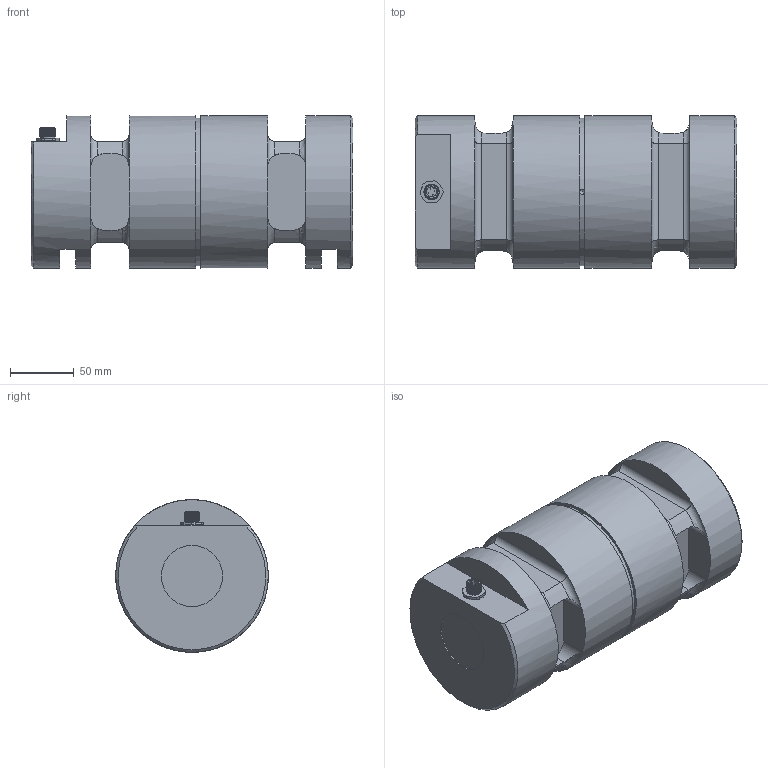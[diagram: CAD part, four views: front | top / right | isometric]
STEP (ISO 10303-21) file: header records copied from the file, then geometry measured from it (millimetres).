
FILE_DESCRIPTION(/* description */ ('Alibre Inc.'),/* implementation_level */ '2;1');
FILE_NAME(/* name */ 'export0',/* time_stamp */ '2014-06-23T09:49:36+02:00',/* author */ (''),/* organization */ (''),/* preprocessor_version */ 'ST-DEVELOPER v14',/* originating_system */ 'Alibre',/* authorisation */ '');
FILE_SCHEMA (('CONFIG_CONTROL_DESIGN'));
Length unit declared in the file: centimetre
Products named in the file (6): ID_1; ID_2; ID_3
Bounding box: 253 x 120 x 120 mm (x, y, z)
Volume: 2478662.7 mm3; surface area: 147775.2 mm2
Topology: 8 solids, 8 shells, 212 faces, 471 edges, 282 vertices
Faces by surface type: plane 87, cylinder 76, bspline 23, torus 17, cone 9
Full cylindrical faces by diameter (mm): 0.5 x8, 4 x1, 8 x3, 8.647 x1, 10 x4, 11.5 x1, 13 x1, 14.376 x1, 48 x1, 116 x1, 120 x4
Entity records: 16750 total; most frequent: CARTESIAN_POINT 12453, ORIENTED_EDGE 842, DIRECTION 545, EDGE_CURVE 416, VERTEX_POINT 266, FACE_BOUND 265, EDGE_LOOP 262, AXIS2_PLACEMENT_3D 243
